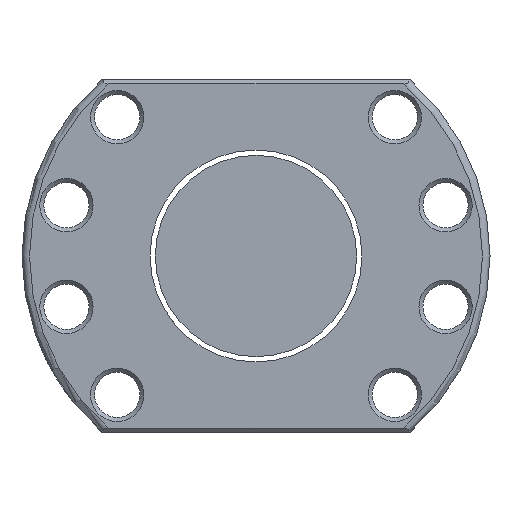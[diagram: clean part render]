
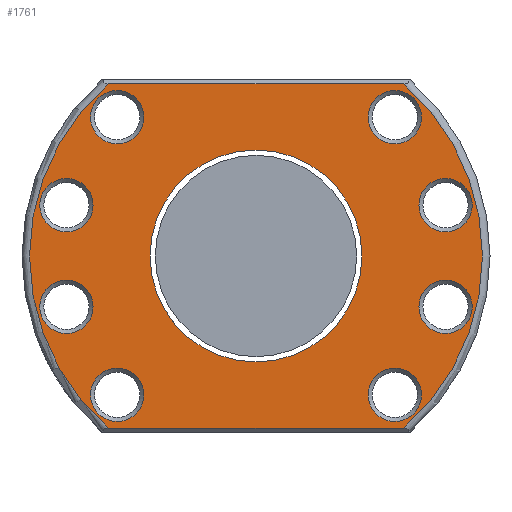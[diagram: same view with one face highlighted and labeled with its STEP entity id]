
A CAD part, left-side view. The second image highlights one B-rep face of the part: STEP entity #1761.
In plain terms, the highlighted planar face has unit normal (-1, 0, 0).
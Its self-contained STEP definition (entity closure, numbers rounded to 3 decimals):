
#5 = FACE_BOUND ( 'NONE', #2559, .T. ) ;
#21 = FACE_OUTER_BOUND ( 'NONE', #800, .T. ) ;
#47 = CARTESIAN_POINT ( 'NONE',  ( -55., 22.277, 27.577 ) ) ;
#71 = EDGE_CURVE ( 'NONE', #2621, #2621, #3221, .T. ) ;
#98 = CARTESIAN_POINT ( 'NONE',  ( -55., -29.247, -34.2 ) ) ;
#146 = CIRCLE ( 'NONE', #3274, 5.3 ) ;
#156 = EDGE_CURVE ( 'NONE', #1883, #1883, #1794, .T. ) ;
#171 = ORIENTED_EDGE ( 'NONE', *, *, #2792, .T. ) ;
#183 = DIRECTION ( 'NONE',  ( 1., 0., 0. ) ) ;
#199 = ORIENTED_EDGE ( 'NONE', *, *, #1888, .T. ) ;
#254 = EDGE_CURVE ( 'NONE', #2869, #2869, #146, .T. ) ;
#260 = FACE_BOUND ( 'NONE', #1476, .T. ) ;
#281 = EDGE_CURVE ( 'NONE', #353, #353, #676, .T. ) ;
#296 = DIRECTION ( 'NONE',  ( -1., 0., 0. ) ) ;
#318 = CARTESIAN_POINT ( 'NONE',  ( -55., 22.277, -27.577 ) ) ;
#334 = DIRECTION ( 'NONE',  ( 1., 0., 0. ) ) ;
#353 = VERTEX_POINT ( 'NONE', #3142 ) ;
#357 = CIRCLE ( 'NONE', #1191, 5.3 ) ;
#386 = VERTEX_POINT ( 'NONE', #47 ) ;
#425 = EDGE_LOOP ( 'NONE', ( #171 ) ) ;
#435 = DIRECTION ( 'NONE',  ( 0., -1., 0. ) ) ;
#452 = ORIENTED_EDGE ( 'NONE', *, *, #3164, .T. ) ;
#498 = ORIENTED_EDGE ( 'NONE', *, *, #71, .T. ) ;
#514 = VERTEX_POINT ( 'NONE', #98 ) ;
#542 = EDGE_LOOP ( 'NONE', ( #2504 ) ) ;
#606 = DIRECTION ( 'NONE',  ( 0., -1., 0. ) ) ;
#661 = VERTEX_POINT ( 'NONE', #715 ) ;
#676 = CIRCLE ( 'NONE', #1852, 5.3 ) ;
#715 = CARTESIAN_POINT ( 'NONE',  ( -55., -32.877, -27.577 ) ) ;
#735 = DIRECTION ( 'NONE',  ( 1., 0., 0. ) ) ;
#760 = FACE_BOUND ( 'NONE', #1864, .T. ) ;
#764 = DIRECTION ( 'NONE',  ( -1., 0., 0. ) ) ;
#780 = AXIS2_PLACEMENT_3D ( 'NONE', #2750, #764, #2013 ) ;
#793 = EDGE_LOOP ( 'NONE', ( #2520 ) ) ;
#800 = EDGE_LOOP ( 'NONE', ( #199, #1097, #2259, #452 ) ) ;
#816 = DIRECTION ( 'NONE',  ( 0., -1., 0. ) ) ;
#834 = CIRCLE ( 'NONE', #2900, 5.3 ) ;
#918 = DIRECTION ( 'NONE',  ( 0., -1., 0. ) ) ;
#963 = ORIENTED_EDGE ( 'NONE', *, *, #254, .T. ) ;
#1019 = DIRECTION ( 'NONE',  ( 0., -1., 0. ) ) ;
#1054 = DIRECTION ( 'NONE',  ( 0., -1., 0. ) ) ;
#1097 = ORIENTED_EDGE ( 'NONE', *, *, #2950, .T. ) ;
#1103 = CARTESIAN_POINT ( 'NONE',  ( -55., 27.577, -27.577 ) ) ;
#1191 = AXIS2_PLACEMENT_3D ( 'NONE', #1753, #3246, #1212 ) ;
#1195 = DIRECTION ( 'NONE',  ( 0., -1., 0. ) ) ;
#1212 = DIRECTION ( 'NONE',  ( 0., -1., 0. ) ) ;
#1250 = EDGE_LOOP ( 'NONE', ( #963 ) ) ;
#1278 = CARTESIAN_POINT ( 'NONE',  ( -55., 30.615, 34.2 ) ) ;
#1346 = DIRECTION ( 'NONE',  ( 0., 1., 0. ) ) ;
#1361 = EDGE_CURVE ( 'NONE', #386, #386, #2718, .T. ) ;
#1476 = EDGE_LOOP ( 'NONE', ( #2584 ) ) ;
#1533 = DIRECTION ( 'NONE',  ( 1., 0., 0. ) ) ;
#1557 = CARTESIAN_POINT ( 'NONE',  ( -55., 46.5, 0. ) ) ;
#1569 = AXIS2_PLACEMENT_3D ( 'NONE', #1557, #296, #1019 ) ;
#1581 = AXIS2_PLACEMENT_3D ( 'NONE', #2188, #2406, #2632 ) ;
#1702 = ORIENTED_EDGE ( 'NONE', *, *, #1964, .T. ) ;
#1711 = DIRECTION ( 'NONE',  ( 1., 0., 0. ) ) ;
#1728 = AXIS2_PLACEMENT_3D ( 'NONE', #2908, #3129, #606 ) ;
#1753 = CARTESIAN_POINT ( 'NONE',  ( -55., 37.671, -10.094 ) ) ;
#1761 = ADVANCED_FACE ( 'NONE', ( #2762, #760, #2566, #260, #5, #2009, #2798, #3012, #21, #2043 ), #3285, .T. ) ;
#1794 = CIRCLE ( 'NONE', #1581, 5.3 ) ;
#1852 = AXIS2_PLACEMENT_3D ( 'NONE', #2773, #735, #2215 ) ;
#1855 = CARTESIAN_POINT ( 'NONE',  ( -55., 29.247, 34.2 ) ) ;
#1864 = EDGE_LOOP ( 'NONE', ( #498 ) ) ;
#1867 = CARTESIAN_POINT ( 'NONE',  ( -55., -32.877, 27.577 ) ) ;
#1883 = VERTEX_POINT ( 'NONE', #2905 ) ;
#1888 = EDGE_CURVE ( 'NONE', #2101, #514, #2291, .T. ) ;
#1916 = VERTEX_POINT ( 'NONE', #2669 ) ;
#1964 = EDGE_CURVE ( 'NONE', #1916, #1916, #3052, .T. ) ;
#2002 = CARTESIAN_POINT ( 'NONE',  ( -55., -27.577, 27.577 ) ) ;
#2009 = FACE_BOUND ( 'NONE', #1250, .T. ) ;
#2013 = DIRECTION ( 'NONE',  ( 0., -1., 0. ) ) ;
#2042 = CARTESIAN_POINT ( 'NONE',  ( -55., -27.577, -27.577 ) ) ;
#2043 = FACE_BOUND ( 'NONE', #793, .T. ) ;
#2076 = EDGE_CURVE ( 'NONE', #2169, #2169, #2370, .T. ) ;
#2101 = VERTEX_POINT ( 'NONE', #2570 ) ;
#2122 = AXIS2_PLACEMENT_3D ( 'NONE', #1103, #2131, #918 ) ;
#2131 = DIRECTION ( 'NONE',  ( 1., 0., 0. ) ) ;
#2135 = EDGE_LOOP ( 'NONE', ( #2343 ) ) ;
#2169 = VERTEX_POINT ( 'NONE', #3176 ) ;
#2188 = CARTESIAN_POINT ( 'NONE',  ( -55., -37.671, 10.094 ) ) ;
#2210 = VECTOR ( 'NONE', #2785, 1000. ) ;
#2215 = DIRECTION ( 'NONE',  ( 0., -1., 0. ) ) ;
#2244 = VERTEX_POINT ( 'NONE', #2754 ) ;
#2252 = CARTESIAN_POINT ( 'NONE',  ( -55., -29.247, 34.2 ) ) ;
#2259 = ORIENTED_EDGE ( 'NONE', *, *, #3146, .T. ) ;
#2291 = LINE ( 'NONE', #2583, #2940 ) ;
#2343 = ORIENTED_EDGE ( 'NONE', *, *, #2509, .T. ) ;
#2370 = CIRCLE ( 'NONE', #3168, 21.05 ) ;
#2406 = DIRECTION ( 'NONE',  ( 1., 0., 0. ) ) ;
#2498 = DIRECTION ( 'NONE',  ( 0., -1., 0. ) ) ;
#2504 = ORIENTED_EDGE ( 'NONE', *, *, #1361, .T. ) ;
#2509 = EDGE_CURVE ( 'NONE', #2244, #2244, #357, .T. ) ;
#2520 = ORIENTED_EDGE ( 'NONE', *, *, #2076, .T. ) ;
#2559 = EDGE_LOOP ( 'NONE', ( #2848 ) ) ;
#2566 = FACE_BOUND ( 'NONE', #425, .T. ) ;
#2570 = CARTESIAN_POINT ( 'NONE',  ( -55., 29.247, -34.2 ) ) ;
#2583 = CARTESIAN_POINT ( 'NONE',  ( -55., -30.615, -34.2 ) ) ;
#2584 = ORIENTED_EDGE ( 'NONE', *, *, #281, .T. ) ;
#2588 = CARTESIAN_POINT ( 'NONE',  ( -55., 27.577, 27.577 ) ) ;
#2620 = CARTESIAN_POINT ( 'NONE',  ( -55., 0., 0. ) ) ;
#2621 = VERTEX_POINT ( 'NONE', #318 ) ;
#2632 = DIRECTION ( 'NONE',  ( 0., -1., 0. ) ) ;
#2669 = CARTESIAN_POINT ( 'NONE',  ( -55., 32.371, 10.094 ) ) ;
#2695 = EDGE_LOOP ( 'NONE', ( #1702 ) ) ;
#2708 = VERTEX_POINT ( 'NONE', #2252 ) ;
#2718 = CIRCLE ( 'NONE', #2984, 5.3 ) ;
#2750 = CARTESIAN_POINT ( 'NONE',  ( -55., 0., 0. ) ) ;
#2754 = CARTESIAN_POINT ( 'NONE',  ( -55., 32.371, -10.094 ) ) ;
#2762 = FACE_BOUND ( 'NONE', #2135, .T. ) ;
#2773 = CARTESIAN_POINT ( 'NONE',  ( -55., -37.671, -10.094 ) ) ;
#2785 = DIRECTION ( 'NONE',  ( 0., 1., 0. ) ) ;
#2792 = EDGE_CURVE ( 'NONE', #661, #661, #834, .T. ) ;
#2798 = FACE_BOUND ( 'NONE', #542, .T. ) ;
#2803 = LINE ( 'NONE', #1278, #2210 ) ;
#2848 = ORIENTED_EDGE ( 'NONE', *, *, #156, .T. ) ;
#2869 = VERTEX_POINT ( 'NONE', #1867 ) ;
#2900 = AXIS2_PLACEMENT_3D ( 'NONE', #2042, #3045, #2498 ) ;
#2902 = VERTEX_POINT ( 'NONE', #1855 ) ;
#2905 = CARTESIAN_POINT ( 'NONE',  ( -55., -42.971, 10.094 ) ) ;
#2908 = CARTESIAN_POINT ( 'NONE',  ( -55., 0., 0. ) ) ;
#2940 = VECTOR ( 'NONE', #1054, 1000. ) ;
#2945 = CIRCLE ( 'NONE', #780, 45. ) ;
#2950 = EDGE_CURVE ( 'NONE', #514, #2708, #3113, .T. ) ;
#2984 = AXIS2_PLACEMENT_3D ( 'NONE', #2588, #1533, #816 ) ;
#3012 = FACE_BOUND ( 'NONE', #2695, .T. ) ;
#3045 = DIRECTION ( 'NONE',  ( 1., 0., 0. ) ) ;
#3052 = CIRCLE ( 'NONE', #3110, 5.3 ) ;
#3110 = AXIS2_PLACEMENT_3D ( 'NONE', #3197, #183, #1195 ) ;
#3113 = CIRCLE ( 'NONE', #1728, 45. ) ;
#3129 = DIRECTION ( 'NONE',  ( -1., 0., 0. ) ) ;
#3142 = CARTESIAN_POINT ( 'NONE',  ( -55., -42.971, -10.094 ) ) ;
#3146 = EDGE_CURVE ( 'NONE', #2708, #2902, #2803, .T. ) ;
#3164 = EDGE_CURVE ( 'NONE', #2902, #2101, #2945, .T. ) ;
#3168 = AXIS2_PLACEMENT_3D ( 'NONE', #2620, #334, #1346 ) ;
#3176 = CARTESIAN_POINT ( 'NONE',  ( -55., 21.05, 0. ) ) ;
#3197 = CARTESIAN_POINT ( 'NONE',  ( -55., 37.671, 10.094 ) ) ;
#3221 = CIRCLE ( 'NONE', #2122, 5.3 ) ;
#3246 = DIRECTION ( 'NONE',  ( 1., 0., 0. ) ) ;
#3274 = AXIS2_PLACEMENT_3D ( 'NONE', #2002, #1711, #435 ) ;
#3285 = PLANE ( 'NONE',  #1569 ) ;
